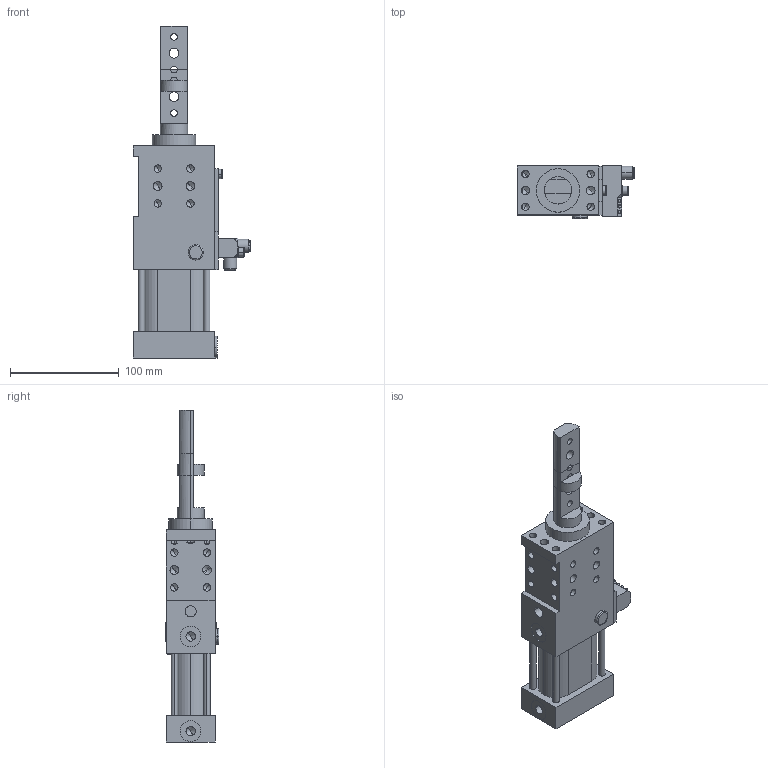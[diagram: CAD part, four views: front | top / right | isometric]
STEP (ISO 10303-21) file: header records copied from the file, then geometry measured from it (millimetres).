
FILE_DESCRIPTION(('CATIA V5 STEP Exchange'),'2;1');
FILE_NAME('G:\Konstruktion\Modelle\UPLOAD\SZK_40_BR3_A42_T12_TUENKERS.stp','2016-10-17T10:32:28+00:00',('none'),('none'),'CATIA Version 5 Release 19 SP 9 (IN-10)','CATIA V5 STEP AP214','none');
FILE_SCHEMA(('AUTOMOTIVE_DESIGN { 1 0 10303 214 1 1 1 1 }'));
Length unit declared in the file: millimetre
Products named in the file (1): SZK_40_BR3_A42_T12_TUENKERS
Bounding box: 108 x 49.5 x 305 mm (x, y, z)
Volume: 621985.9 mm3; surface area: 80599.3 mm2
Topology: 2 solids, 2 shells, 249 faces, 695 edges, 425 vertices
Faces by surface type: cylinder 106, plane 69, cone 56, sphere 12, torus 6
Entity records: 8112 total; most frequent: CARTESIAN_POINT 1606, ORIENTED_EDGE 1262, DIRECTION 898, EDGE_CURVE 631, AXIS2_PLACEMENT_3D 460, VERTEX_POINT 425, EDGE_LOOP 314, CIRCLE 313
